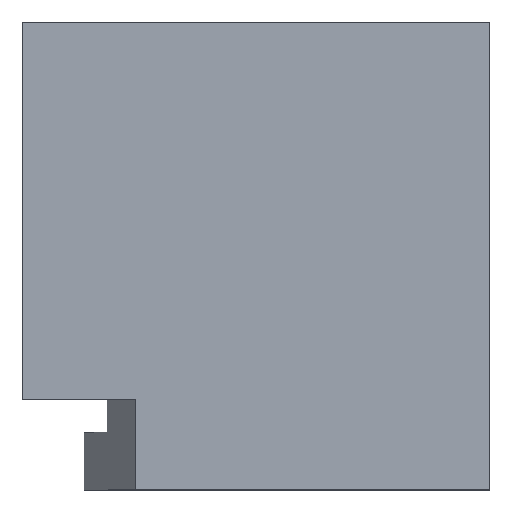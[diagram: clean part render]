
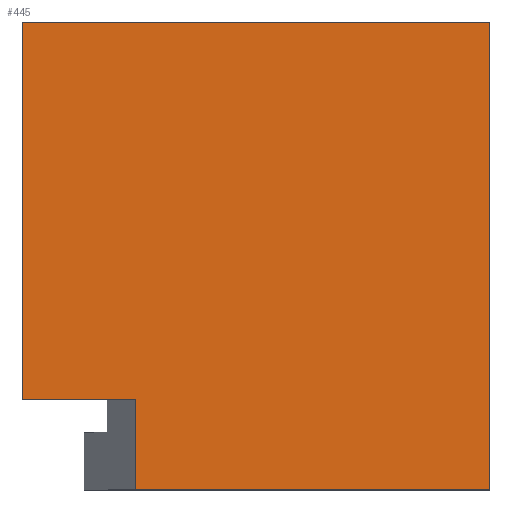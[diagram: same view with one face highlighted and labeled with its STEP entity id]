
A CAD part, top view. The second image highlights one B-rep face of the part: STEP entity #445.
In plain terms, the highlighted planar face has unit normal (0, 0, 1).
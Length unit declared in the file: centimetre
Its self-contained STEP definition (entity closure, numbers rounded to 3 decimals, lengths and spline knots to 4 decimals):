
#4 = VECTOR ( 'NONE', #315, 100. ) ;
#12 = CARTESIAN_POINT ( 'NONE',  ( 1000., 0., 1000. ) ) ;
#33 = DIRECTION ( 'NONE',  ( 1., 0., 0. ) ) ;
#95 = VERTEX_POINT ( 'NONE', #434 ) ;
#97 = EDGE_LOOP ( 'NONE', ( #551, #144, #159, #545, #232, #170 ) ) ;
#108 = DIRECTION ( 'NONE',  ( 1., 0., 0. ) ) ;
#115 = LINE ( 'NONE', #302, #565 ) ;
#128 = CARTESIAN_POINT ( 'NONE',  ( 1000., 1000., 1000. ) ) ;
#144 = ORIENTED_EDGE ( 'NONE', *, *, #354, .T. ) ;
#152 = EDGE_CURVE ( 'NONE', #95, #241, #444, .T. ) ;
#155 = CARTESIAN_POINT ( 'NONE',  ( 1000., 1000., 1000. ) ) ;
#158 = CARTESIAN_POINT ( 'NONE',  ( 0., 1000., 1000. ) ) ;
#159 = ORIENTED_EDGE ( 'NONE', *, *, #265, .T. ) ;
#162 = CARTESIAN_POINT ( 'NONE',  ( 0., 192.6699, 1000. ) ) ;
#170 = ORIENTED_EDGE ( 'NONE', *, *, #152, .F. ) ;
#172 = CARTESIAN_POINT ( 'NONE',  ( 0., 1000., 1000. ) ) ;
#182 = EDGE_CURVE ( 'NONE', #280, #337, #526, .T. ) ;
#194 = CARTESIAN_POINT ( 'NONE',  ( 0., 1000., 1000. ) ) ;
#232 = ORIENTED_EDGE ( 'NONE', *, *, #402, .T. ) ;
#241 = VERTEX_POINT ( 'NONE', #162 ) ;
#254 = LINE ( 'NONE', #158, #382 ) ;
#262 = DIRECTION ( 'NONE',  ( -1., 0., 0. ) ) ;
#265 = EDGE_CURVE ( 'NONE', #309, #280, #572, .T. ) ;
#266 = VECTOR ( 'NONE', #108, 100. ) ;
#279 = VERTEX_POINT ( 'NONE', #346 ) ;
#280 = VERTEX_POINT ( 'NONE', #155 ) ;
#302 = CARTESIAN_POINT ( 'NONE',  ( 242.1643, 192.6699, 1000. ) ) ;
#305 = DIRECTION ( 'NONE',  ( 0., -1., 0. ) ) ;
#309 = VERTEX_POINT ( 'NONE', #12 ) ;
#315 = DIRECTION ( 'NONE',  ( 0., 1., 0. ) ) ;
#337 = VERTEX_POINT ( 'NONE', #194 ) ;
#346 = CARTESIAN_POINT ( 'NONE',  ( 242.1643, 0., 1000. ) ) ;
#354 = EDGE_CURVE ( 'NONE', #279, #309, #462, .T. ) ;
#358 = CARTESIAN_POINT ( 'NONE',  ( 0., 192.6699, 1000. ) ) ;
#363 = AXIS2_PLACEMENT_3D ( 'NONE', #525, #562, #33 ) ;
#382 = VECTOR ( 'NONE', #515, 100. ) ;
#402 = EDGE_CURVE ( 'NONE', #337, #241, #254, .T. ) ;
#434 = CARTESIAN_POINT ( 'NONE',  ( 242.1643, 192.6699, 1000. ) ) ;
#436 = PLANE ( 'NONE',  #363 ) ;
#444 = LINE ( 'NONE', #358, #483 ) ;
#445 = ADVANCED_FACE ( 'NONE', ( #559 ), #436, .T. ) ;
#462 = LINE ( 'NONE', #552, #266 ) ;
#483 = VECTOR ( 'NONE', #262, 100. ) ;
#515 = DIRECTION ( 'NONE',  ( 0., -1., 0. ) ) ;
#518 = EDGE_CURVE ( 'NONE', #95, #279, #115, .T. ) ;
#525 = CARTESIAN_POINT ( 'NONE',  ( 0., 0., 1000. ) ) ;
#526 = LINE ( 'NONE', #172, #540 ) ;
#540 = VECTOR ( 'NONE', #569, 100. ) ;
#545 = ORIENTED_EDGE ( 'NONE', *, *, #182, .T. ) ;
#551 = ORIENTED_EDGE ( 'NONE', *, *, #518, .T. ) ;
#552 = CARTESIAN_POINT ( 'NONE',  ( 0., 0., 1000. ) ) ;
#559 = FACE_OUTER_BOUND ( 'NONE', #97, .T. ) ;
#562 = DIRECTION ( 'NONE',  ( 0., 0., 1. ) ) ;
#565 = VECTOR ( 'NONE', #305, 100. ) ;
#569 = DIRECTION ( 'NONE',  ( -1., 0., 0. ) ) ;
#572 = LINE ( 'NONE', #128, #4 ) ;
